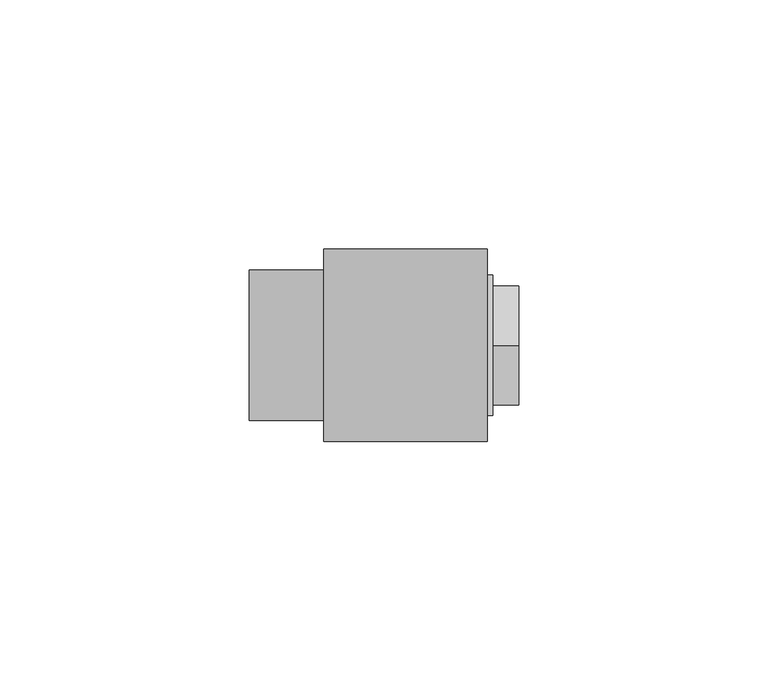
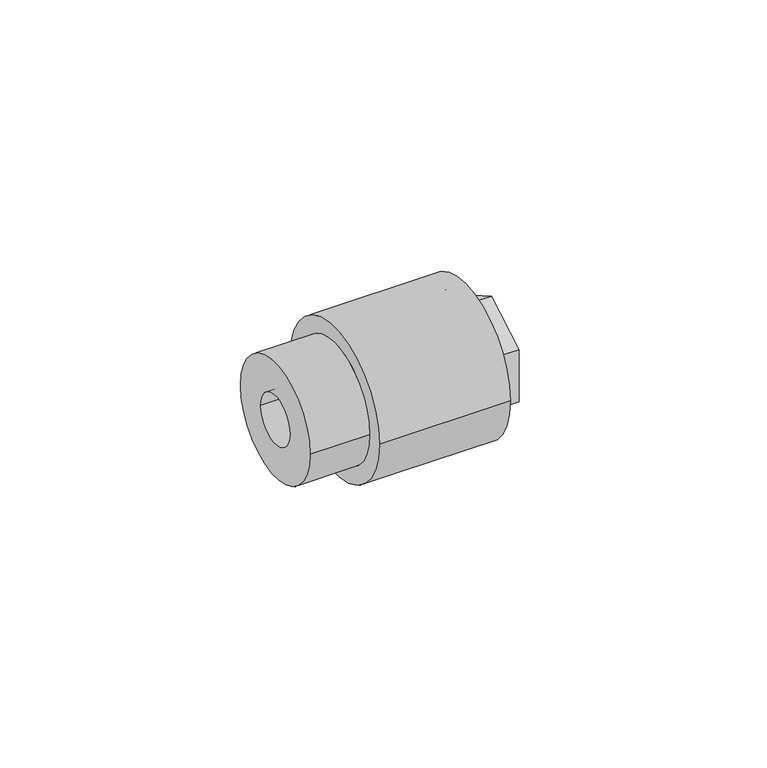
"""IFC4 building model written with IfcOpenShell, lengths in millimetres: pipe fitting geometry, Aquatherm - Fusion Outlet Transition Female : POTABLE BRASS - HEX."""

from ifc_helpers import new_model, si_unit, frame, origin, place, context, project, spatial, polyline, circle_curve, source, transform, mapped, element, save
from ifc_brep_helpers import plane_surface, cylinder_surface, revolved_surface, advanced_brep


def pipe_fitting_13115ab8(model_context):
    return source(origin(), model_context, "Body", "AdvancedBrep", [
        advanced_brep(
        [(26.416, 9.525, 0.0), (26.416, -9.525, 0.0), (36.5363125, -9.525, 0.0), (36.5363125, 9.525, 0.0), (26.416, 10.31875, 0.0), (26.416, -10.31875, 0.0), (23.241, 10.31875, 0.0), (23.241, -10.31875, 0.0), (23.241, 6.35, 0.0), (23.241, -6.35, 0.0), (20.066, 6.35, 0.0), (20.066, -6.35, 0.0), (20.066, 15.113, 0.0), (20.066, -15.113, 0.0), (32.766, 15.113, 0.0), (32.766, -15.113, 0.0), (39.116, 10.31875, 0.0), (39.116, -10.31875, 0.0), (39.116, -11.938, 0.0), (39.116, -11.938, -6.8924075), (39.116, 0.0, -13.784815), (39.116, 11.938, -6.8924075), (39.116, 11.938, 0.0), (39.116, 11.938, 6.8924075), (39.116, 0.0, 13.784815), (39.116, -11.938, 6.8924075), (32.766, 14.097, 0.0), (32.766, -14.097, 0.0), (33.956625, 14.097, 0.0), (33.956625, -14.097, 0.0), (33.956625, 0.0, -13.784815), (33.956625, -11.938, -6.8924075), (33.956625, -11.938, 6.8924075), (33.956625, 0.0, 13.784815), (33.956625, 11.938, 6.8924075), (33.956625, 11.938, -6.8924075)],
        [
            (0, 1, circle_curve(frame((26.416, 0.0, 0.0), z_axis=(-1.0, 0.0, 0.0), x_axis=(0.0, -1.0, 0.0)), 9.525)),
            (1, 2),
            (2, 3, circle_curve(frame((36.5363125, 0.0, 0.0), z_axis=(1.0, 0.0, 0.0), x_axis=(0.0, -1.0, 0.0)), 9.525)),
            (3, 0),
            (1, 0, circle_curve(frame((26.416, 0.0, 0.0), z_axis=(-1.0, 0.0, 0.0), x_axis=(0.0, -1.0, 0.0)), 9.525)),
            (3, 2, circle_curve(frame((36.5363125, 0.0, 0.0), z_axis=(1.0, 0.0, 0.0), x_axis=(0.0, -1.0, 0.0)), 9.525)),
            (0, 4),
            (4, 5, circle_curve(frame((26.416, 0.0, 0.0), z_axis=(-1.0, 0.0, 0.0), x_axis=(0.0, -1.0, 0.0)), 10.31875)),
            (5, 1),
            (5, 4, circle_curve(frame((26.416, 0.0, 0.0), z_axis=(-1.0, 0.0, 0.0), x_axis=(0.0, -1.0, 0.0)), 10.31875)),
            (4, 6),
            (6, 7, circle_curve(frame((23.241, 0.0, 0.0), z_axis=(-1.0, 0.0, 0.0), x_axis=(0.0, -1.0, 0.0)), 10.31875)),
            (7, 5),
            (7, 6, circle_curve(frame((23.241, 0.0, 0.0), z_axis=(-1.0, 0.0, 0.0), x_axis=(0.0, -1.0, 0.0)), 10.31875)),
            (6, 8),
            (8, 9, circle_curve(frame((23.241, 0.0, 0.0), z_axis=(-1.0, 0.0, 0.0), x_axis=(0.0, -1.0, 0.0)), 6.35)),
            (9, 7),
            (9, 8, circle_curve(frame((23.241, 0.0, 0.0), z_axis=(-1.0, 0.0, 0.0), x_axis=(0.0, -1.0, 0.0)), 6.35)),
            (8, 10),
            (10, 11, circle_curve(frame((20.066, 0.0, 0.0), z_axis=(-1.0, 0.0, 0.0), x_axis=(0.0, -1.0, 0.0)), 6.35)),
            (11, 9),
            (11, 10, circle_curve(frame((20.066, 0.0, 0.0), z_axis=(-1.0, 0.0, 0.0), x_axis=(0.0, -1.0, 0.0)), 6.35)),
            (10, 12),
            (12, 13, circle_curve(frame((20.066, 0.0, 0.0), z_axis=(-1.0, 0.0, 0.0), x_axis=(0.0, -1.0, 0.0)), 15.113)),
            (13, 11),
            (13, 12, circle_curve(frame((20.066, 0.0, 0.0), z_axis=(-1.0, 0.0, 0.0), x_axis=(0.0, -1.0, 0.0)), 15.113)),
            (12, 14),
            (14, 15, circle_curve(frame((32.766, 0.0, 0.0), z_axis=(-1.0, 0.0, 0.0), x_axis=(0.0, -1.0, 0.0)), 15.113)),
            (15, 13),
            (15, 14, circle_curve(frame((32.766, 0.0, 0.0), z_axis=(-1.0, 0.0, 0.0), x_axis=(0.0, -1.0, 0.0)), 15.113)),
            (16, 17, circle_curve(frame((39.116, 0.0, 0.0), z_axis=(-1.0, 0.0, 0.0), x_axis=(0.0, -1.0, 0.0)), 10.31875)),
            (17, 18),
            (18, 19),
            (19, 20),
            (20, 21),
            (21, 22),
            (22, 16),
            (17, 16, circle_curve(frame((39.116, 0.0, 0.0), z_axis=(-1.0, 0.0, 0.0), x_axis=(0.0, -1.0, 0.0)), 10.31875)),
            (22, 23),
            (23, 24),
            (24, 25),
            (25, 18),
            (2, 17),
            (16, 3),
            (14, 26),
            (26, 27, circle_curve(frame((32.766, 0.0, 0.0), z_axis=(-1.0, 0.0, 0.0), x_axis=(0.0, -1.0, 0.0)), 14.097)),
            (27, 15),
            (27, 26, circle_curve(frame((32.766, 0.0, 0.0), z_axis=(-1.0, 0.0, 0.0), x_axis=(0.0, -1.0, 0.0)), 14.097)),
            (26, 28),
            (28, 29, circle_curve(frame((33.956625, 0.0, 0.0), z_axis=(-1.0, 0.0, 0.0), x_axis=(0.0, -1.0, 0.0)), 14.097)),
            (29, 27),
            (29, 28, circle_curve(frame((33.956625, 0.0, 0.0), z_axis=(-1.0, 0.0, 0.0), x_axis=(0.0, -1.0, 0.0)), 14.097)),
            (30, 31),
            (31, 32),
            (32, 33),
            (33, 34),
            (34, 35),
            (35, 30),
            (35, 21),
            (20, 30),
            (34, 23),
            (33, 24),
            (32, 25),
            (31, 19),
        ],
        [
            revolved_surface(polyline([(36.5363125, -9.525, 0.0), (26.416, -9.525, 0.0)]), (40.9492251, 0.0, 0.0), (1.0, 0.0, 0.0)),
            plane_surface(frame((26.416, 0.0, 0.0), z_axis=(-1.0, 0.0, 0.0), x_axis=(0.0, -1.0, 0.0))),
            revolved_surface(polyline([(26.416, -10.31875, 0.0), (23.241, -10.31875, 0.0)]), (40.9492251, 0.0, 0.0), (1.0, 0.0, 0.0)),
            plane_surface(frame((23.241, 0.0, 0.0), z_axis=(1.0, 0.0, 0.0), x_axis=(0.0, -1.0, 0.0))),
            revolved_surface(polyline([(23.241, -6.35, 0.0), (20.066, -6.35, 0.0)]), (40.9492251, 0.0, 0.0), (1.0, 0.0, 0.0)),
            plane_surface(frame((20.066, 0.0, 0.0), z_axis=(-1.0, 0.0, 0.0), x_axis=(0.0, -1.0, 0.0))),
            cylinder_surface(frame((40.9492251, 0.0, 0.0), z_axis=(1.0, 0.0, 0.0), x_axis=(0.0, -1.0, 0.0)), 15.113),
            plane_surface(frame((39.116, 0.0, 0.0), z_axis=(1.0, 0.0, 0.0), x_axis=(0.0, -1.0, 0.0))),
            revolved_surface(polyline([(39.116, -10.31875, 0.0), (36.5363125, -9.525, 0.0)]), (40.9492251, 0.0, 0.0), (1.0, 0.0, 0.0)),
            plane_surface(frame((32.766, 0.0, 0.0), z_axis=(1.0, 0.0, 0.0), x_axis=(0.0, -1.0, 0.0))),
            cylinder_surface(frame((40.9492251, 0.0, 0.0), z_axis=(1.0, 0.0, 0.0), x_axis=(0.0, -1.0, 0.0)), 14.097),
            plane_surface(frame((33.956625, 11.938, -6.8924075), z_axis=(1.0, 0.0, 0.0), x_axis=(0.0, 0.8660254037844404, 0.49999999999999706))),
            plane_surface(frame((33.956625, 0.0, -13.784815), z_axis=(0.0, 0.49999999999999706, -0.8660254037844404), x_axis=(1.0, 0.0, 0.0))),
            plane_surface(frame((33.956625, 11.938, -6.8924075), z_axis=(0.0, 1.0, 0.0), x_axis=(1.0, 0.0, 0.0))),
            plane_surface(frame((33.956625, 11.938, 6.8924075), z_axis=(0.0, 0.5000000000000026, 0.8660254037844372), x_axis=(1.0, 0.0, 0.0))),
            plane_surface(frame((33.956625, 0.0, 13.784815), z_axis=(0.0, -0.4999999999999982, 0.8660254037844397), x_axis=(1.0, 0.0, 0.0))),
            plane_surface(frame((33.956625, -11.938, 6.8924075), z_axis=(0.0, -1.0, 0.0), x_axis=(1.0, 0.0, 0.0))),
            plane_surface(frame((33.956625, -11.938, -6.8924075), z_axis=(0.0, -0.5000000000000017, -0.8660254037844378), x_axis=(1.0, 0.0, 0.0))),
        ],
        [
            (0, [[1, 2, 3, 4]]),
            (0, [[-2, 5, -4, 6]]),
            (1, [[-1, 7, 8, 9]]),
            (1, [[-5, -9, 10, -7]]),
            (2, [[-8, 11, 12, 13]]),
            (2, [[-10, -13, 14, -11]]),
            (3, [[-12, 15, 16, 17]]),
            (3, [[-14, -17, 18, -15]]),
            (4, [[-16, 19, 20, 21]]),
            (4, [[-18, -21, 22, -19]]),
            (5, [[-20, 23, 24, 25]]),
            (5, [[-22, -25, 26, -23]]),
            (6, [[-24, 27, 28, 29]]),
            (6, [[-26, -29, 30, -27]]),
            (7, [[31, 32, 33, 34, 35, 36, 37]]),
            (7, [[38, -37, 39, 40, 41, 42, -32]]),
            (8, [[-3, 43, -31, 44]]),
            (8, [[-6, -44, -38, -43]]),
            (9, [[-28, 45, 46, 47]]),
            (9, [[-30, -47, 48, -45]]),
            (10, [[-46, 49, 50, 51]]),
            (10, [[-48, -51, 52, -49]]),
            (11, [[-50, -52], [53, 54, 55, 56, 57, 58]]),
            (12, [[-58, 59, -35, 60]]),
            (13, [[-57, 61, -39, -36, -59]]),
            (14, [[-56, 62, -40, -61]]),
            (15, [[-55, 63, -41, -62]]),
            (16, [[-54, 64, -33, -42, -63]]),
            (17, [[-53, -60, -34, -64]]),
        ],
    ),
        advanced_brep(
        [(-14.8967568, 15.113, 0.0), (-14.8967568, -15.113, 0.0), (-14.8967568, 6.35, 0.0), (-14.8967568, -6.35, 0.0), (20.066, 15.113, 0.0), (20.066, -15.113, 0.0), (20.066, 6.35, 0.0), (20.066, -6.35, 0.0), (0.0, 15.113, 0.0), (0.0, -15.113, 0.0), (32.766, 19.304, 0.0), (32.766, -19.304, 0.0), (32.766, 15.113, 0.0), (32.766, -15.113, 0.0), (0.0, 19.304, 0.0), (0.0, -19.304, 0.0)],
        [
            (0, 1, circle_curve(frame((-14.8967568, 0.0, 0.0), z_axis=(-1.0, 0.0, 0.0), x_axis=(0.0, -1.0, 0.0)), 15.113)),
            (1, 0, circle_curve(frame((-14.8967568, 0.0, 0.0), z_axis=(-1.0, 0.0, 0.0), x_axis=(0.0, -1.0, 0.0)), 15.113)),
            (2, 3, circle_curve(frame((-14.8967568, 0.0, 0.0), z_axis=(1.0, 0.0, 0.0), x_axis=(0.0, -1.0, 0.0)), 6.35)),
            (3, 2, circle_curve(frame((-14.8967568, 0.0, 0.0), z_axis=(1.0, 0.0, 0.0), x_axis=(0.0, -1.0, 0.0)), 6.35)),
            (4, 5, circle_curve(frame((20.066, 0.0, 0.0), z_axis=(1.0, 0.0, 0.0), x_axis=(0.0, -1.0, 0.0)), 15.113)),
            (5, 4, circle_curve(frame((20.066, 0.0, 0.0), z_axis=(1.0, 0.0, 0.0), x_axis=(0.0, -1.0, 0.0)), 15.113)),
            (6, 7, circle_curve(frame((20.066, 0.0, 0.0), z_axis=(-1.0, 0.0, 0.0), x_axis=(0.0, -1.0, 0.0)), 6.35)),
            (7, 6, circle_curve(frame((20.066, 0.0, 0.0), z_axis=(-1.0, 0.0, 0.0), x_axis=(0.0, -1.0, 0.0)), 6.35)),
            (2, 6),
            (7, 3),
            (0, 8),
            (8, 9, circle_curve(frame((0.0, 0.0, 0.0), z_axis=(-1.0, 0.0, 0.0), x_axis=(0.0, -1.0, 0.0)), 15.113)),
            (9, 1),
            (9, 8, circle_curve(frame((0.0, 0.0, 0.0), z_axis=(-1.0, 0.0, 0.0), x_axis=(0.0, -1.0, 0.0)), 15.113)),
            (10, 11, circle_curve(frame((32.766, 0.0, 0.0), z_axis=(1.0, 0.0, 0.0), x_axis=(0.0, -1.0, 0.0)), 19.304)),
            (11, 10, circle_curve(frame((32.766, 0.0, 0.0), z_axis=(1.0, 0.0, 0.0), x_axis=(0.0, -1.0, 0.0)), 19.304)),
            (12, 13, circle_curve(frame((32.766, 0.0, 0.0), z_axis=(-1.0, 0.0, 0.0), x_axis=(0.0, -1.0, 0.0)), 15.113)),
            (13, 12, circle_curve(frame((32.766, 0.0, 0.0), z_axis=(-1.0, 0.0, 0.0), x_axis=(0.0, -1.0, 0.0)), 15.113)),
            (14, 15, circle_curve(frame((0.0, 0.0, 0.0), z_axis=(-1.0, 0.0, 0.0), x_axis=(0.0, -1.0, 0.0)), 19.304)),
            (15, 14, circle_curve(frame((0.0, 0.0, 0.0), z_axis=(-1.0, 0.0, 0.0), x_axis=(0.0, -1.0, 0.0)), 19.304)),
            (13, 5),
            (4, 12),
            (11, 15),
            (14, 10),
        ],
        [
            plane_surface(frame((-14.8967568, -6.35, 0.0), z_axis=(-1.0, 0.0, 0.0), x_axis=(0.0, 0.0, -1.0))),
            plane_surface(frame((20.066, -6.35, 0.0), z_axis=(1.0, 0.0, 0.0), x_axis=(0.0, 0.0, 1.0))),
            revolved_surface(polyline([(20.066, -6.35, 0.0), (-14.896756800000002, -6.35, 0.0)]), (20.066, 0.0, 0.0), (1.0, 0.0, 0.0)),
            cylinder_surface(frame((0.0, 0.0, 0.0), z_axis=(-1.0, 0.0, 0.0), x_axis=(0.0, -1.0, 0.0)), 15.113),
            plane_surface(frame((32.766, -15.113, 0.0), z_axis=(1.0, 0.0, 0.0), x_axis=(0.0, 0.0, 1.0))),
            plane_surface(frame((0.0, -15.113, 0.0), z_axis=(-1.0, 0.0, 0.0), x_axis=(0.0, 0.0, -1.0))),
            revolved_surface(polyline([(32.766, -15.113, 0.0), (20.066, -15.113, 0.0)]), (32.766, 0.0, 0.0), (1.0, 0.0, 0.0)),
            cylinder_surface(frame((0.0, 0.0, 0.0), z_axis=(-1.0, 0.0, 0.0), x_axis=(0.0, -1.0, 0.0)), 19.304),
        ],
        [
            (0, [[1, 2], [3, 4]]),
            (1, [[5, 6], [7, 8]]),
            (2, [[-3, 9, -8, 10]]),
            (2, [[-4, -10, -7, -9]]),
            (3, [[-1, 11, 12, 13]]),
            (3, [[-2, -13, 14, -11]]),
            (4, [[15, 16], [17, 18]]),
            (5, [[19, 20], [-12, -14]]),
            (6, [[-18, 21, -5, 22]]),
            (6, [[-17, -22, -6, -21]]),
            (7, [[-16, 23, -19, 24]]),
            (7, [[-15, -24, -20, -23]]),
        ],
    ),
    ])


if __name__ == "__main__":
    model = new_model("IFC4")
    model_context = context("Model", 3, world=origin())
    ifc_project = project(units=[si_unit("LENGTHUNIT", "METRE", prefix="MILLI")], contexts=[model_context])
    site = spatial("IfcSite", under=ifc_project)
    building = spatial("IfcBuilding", under=site)
    placement = place(None, origin())
    pipe_fitting_shape = pipe_fitting_13115ab8(model_context)
    element("IfcPipeFitting", 1, ObjectType="Aquatherm - Fusion Outlet Transition Female : POTABLE BRASS - HEX", at=placement, inside=building, context=model_context, shape_type="MappedRepresentation", body=[
        mapped(pipe_fitting_shape, transform((0.0, 0.0, 0.0), x_axis=(1.0, 0.0, 0.0), y_axis=(0.0, 1.0, 0.0), z_axis=(0.0, 0.0, 1.0))),
    ])
    save(model, "model.ifc")
